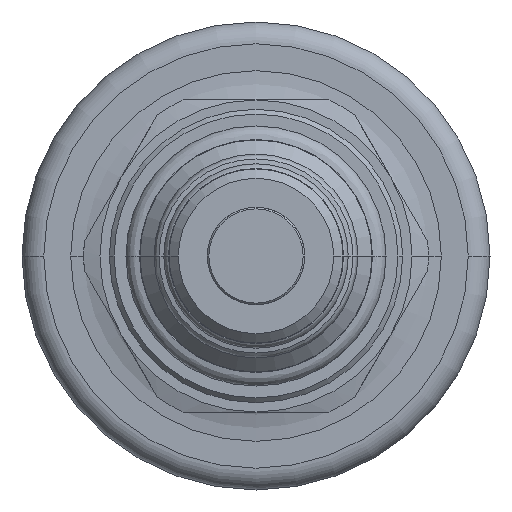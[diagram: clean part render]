
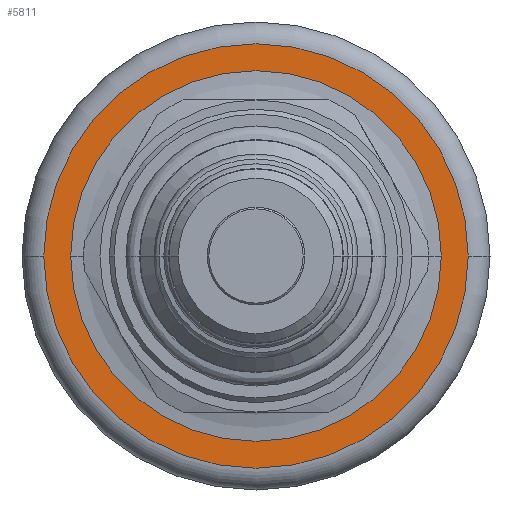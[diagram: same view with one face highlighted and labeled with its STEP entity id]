
A CAD part, front view. The second image highlights one B-rep face of the part: STEP entity #5811.
In plain terms, the highlighted planar face has unit normal (0, -1, 0).
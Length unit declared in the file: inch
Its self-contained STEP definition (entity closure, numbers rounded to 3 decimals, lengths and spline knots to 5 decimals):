
#2467=CARTESIAN_POINT('',(0.,3.218,0.));
#2468=DIRECTION('',(0.,1.,0.));
#2469=DIRECTION('',(1.,0.,0.));
#2470=AXIS2_PLACEMENT_3D('',#2467,#2468,#2469);
#2472=CARTESIAN_POINT('',(0.,3.218,0.));
#2473=DIRECTION('',(0.,-1.,0.));
#2474=DIRECTION('',(1.,0.,0.));
#2475=AXIS2_PLACEMENT_3D('',#2472,#2473,#2474);
#2477=CARTESIAN_POINT('',(0.,3.218,0.));
#2478=DIRECTION('',(0.,-1.,0.));
#2479=DIRECTION('',(1.,0.,0.));
#2480=AXIS2_PLACEMENT_3D('',#2477,#2478,#2479);
#2492=CARTESIAN_POINT('',(0.,3.218,0.));
#2493=DIRECTION('',(0.,1.,0.));
#2494=DIRECTION('',(1.,0.,0.));
#2495=AXIS2_PLACEMENT_3D('',#2492,#2493,#2494);
#2981=CARTESIAN_POINT('',(0.59375,3.218,0.));
#2982=VERTEX_POINT('',#2981);
#2983=CARTESIAN_POINT('',(0.68,3.218,0.));
#2985=VERTEX_POINT('',#2983);
#2993=CARTESIAN_POINT('',(-0.59375,3.218,0.));
#2994=VERTEX_POINT('',#2993);
#2995=CARTESIAN_POINT('',(-0.68,3.218,0.));
#2997=VERTEX_POINT('',#2995);
#5796=CARTESIAN_POINT('',(0.,3.218,0.));
#5797=DIRECTION('',(0.,-1.,0.));
#5798=DIRECTION('',(-1.,0.,0.));
#5799=AXIS2_PLACEMENT_3D('',#5796,#5797,#5798);
#5800=PLANE('',#5799);
#5802=ORIENTED_EDGE('',*,*,#5801,.F.);
#5804=ORIENTED_EDGE('',*,*,#5803,.T.);
#5805=EDGE_LOOP('',(#5802,#5804));
#5806=FACE_OUTER_BOUND('',#5805,.F.);
#5807=ORIENTED_EDGE('',*,*,#5789,.F.);
#5808=ORIENTED_EDGE('',*,*,#5778,.T.);
#5809=EDGE_LOOP('',(#5807,#5808));
#5810=FACE_BOUND('',#5809,.F.);
#5811=ADVANCED_FACE('',(#5806,#5810),#5800,.T.);
#2471=CIRCLE('',#2470,0.59375);
#2476=CIRCLE('',#2475,0.59375);
#2481=CIRCLE('',#2480,0.68);
#2496=CIRCLE('',#2495,0.68);
#5778=EDGE_CURVE('',#2982,#2994,#2476,.T.);
#5789=EDGE_CURVE('',#2982,#2994,#2471,.T.);
#5801=EDGE_CURVE('',#2985,#2997,#2481,.T.);
#5803=EDGE_CURVE('',#2985,#2997,#2496,.T.);
